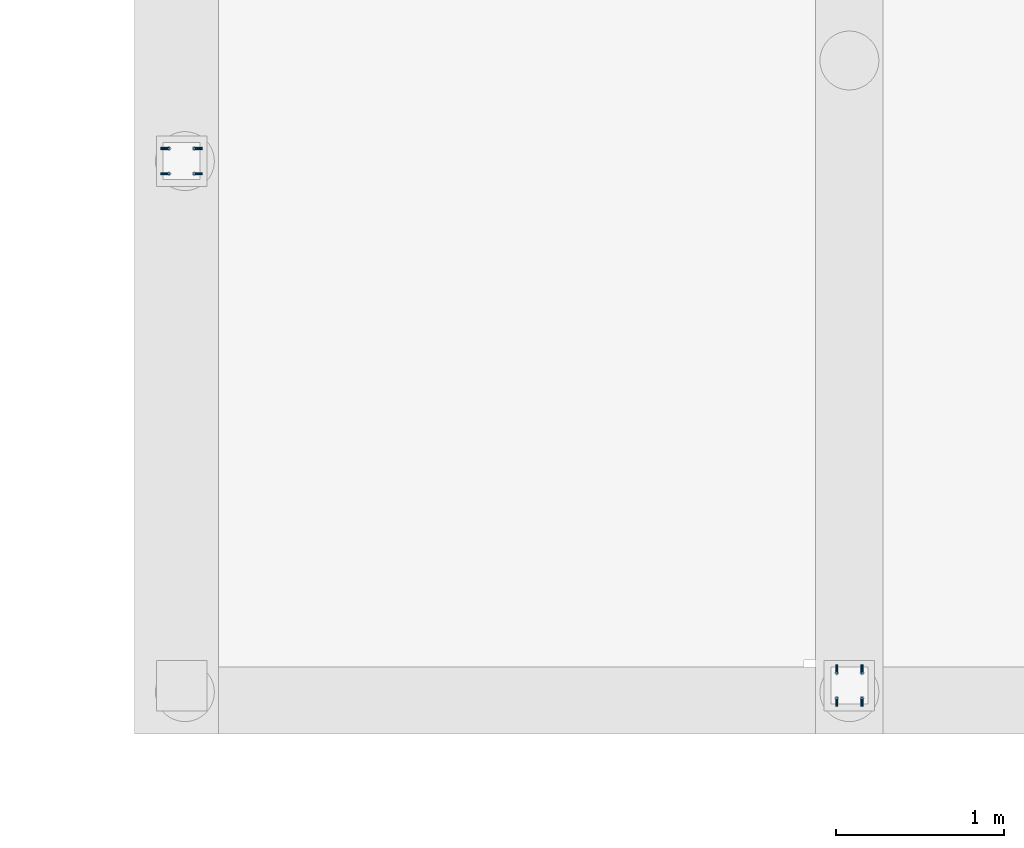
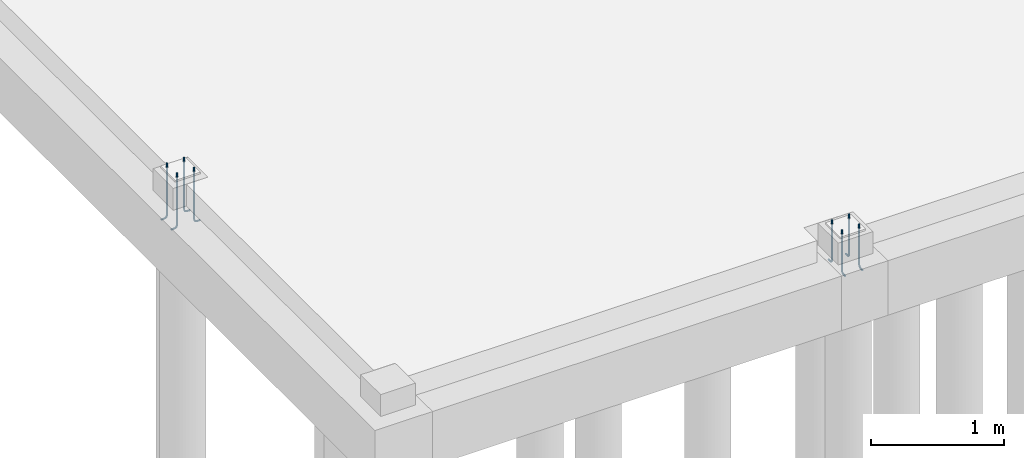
# One storey, part 15 of 22: 8 beams.
"""IFC2X3 building model written with IfcOpenShell, lengths in millimetres."""

from ifc_helpers import new_model, si_unit, frame, origin_with_axes, place, context, subcontext, project, spatial, faceted_brep, material, type_object, element, save


model = new_model("IFC2X3")

# Units and contexts
model_context = context("Model", 3, precision=1e-05, world=origin_with_axes())
body_context = subcontext(model_context, "Body", "Model", "MODEL_VIEW")
ifc_project = project(units=[si_unit("LENGTHUNIT", "METRE", prefix="MILLI"), si_unit("AREAUNIT", "SQUARE_METRE"), si_unit("VOLUMEUNIT", "CUBIC_METRE"), si_unit("MASSUNIT", "GRAM", prefix="KILO"), si_unit("TIMEUNIT", "SECOND"), si_unit("PLANEANGLEUNIT", "RADIAN"), si_unit("SOLIDANGLEUNIT", "STERADIAN"), si_unit("THERMODYNAMICTEMPERATUREUNIT", "DEGREE_CELSIUS"), si_unit("LUMINOUSINTENSITYUNIT", "LUMEN")], contexts=[model_context])

# Site, building, storey
site_placement = place(None, origin_with_axes())
site = spatial("IfcSite", under=ifc_project, at=site_placement, Name="Undefined", CompositionType="ELEMENT")
building_placement = place(site_placement, origin_with_axes())
building = spatial("IfcBuilding", under=site, at=building_placement, Name="Undefined", CompositionType="ELEMENT")
storey_placement = place(building_placement, origin_with_axes())
storey = spatial("IfcBuildingStorey", under=building, at=storey_placement, Name="Undefined", CompositionType="ELEMENT", Elevation=0.0)

# Beams
ifc_material = material(Name="STEEL/S235JR")
beam_type = type_object("IfcBeamType", Name="ANKER_M16", PredefinedType="NOTDEFINED")
beam_1_placement = place(storey_placement, frame((11467.0100631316, 3463.27671001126, 0.0), z_axis=(1.0, 0.0, 0.0), x_axis=(0.0, 0.0, -1.0)))
element("IfcBeam", 1, at=beam_1_placement, inside=storey, type_object=beam_type, material=ifc_material, Name="ANKER", context=body_context, shape_type="Brep", body=[
    faceted_brep([(0.0, -8.00000000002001, 7.27595761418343e-12), (0.0, -5.65685424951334, -5.65685424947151), (477.0, -5.65685424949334, -5.65685424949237), (477.0, -8.0, 0.0), (0.0, -9.09494701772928e-12, -7.99999999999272), (477.0, 0.0, -8.0), (0.0, 5.65685424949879, -5.65685424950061), (477.0, 5.65685424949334, -5.65685424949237), (0.0, 8.00000000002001, -3.63797880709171e-11), (477.0, 8.0, 0.0), (0.0, 5.65685424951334, 5.65685424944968), (477.0, 5.65685424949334, 5.65685424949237), (0.0, 5.45696821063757e-12, 7.99999999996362), (477.0, 0.0, 8.0), (0.0, -5.65685424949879, 5.65685424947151), (477.0, -5.65685424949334, 5.65685424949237), (488.863186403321, 0.0, 5.64026550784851), (487.966503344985, 5.65685424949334, 3.47548110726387), (485.801718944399, 8.0, -1.75077075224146), (483.636934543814, 5.65685424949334, -6.9770226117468), (482.740251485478, 0.0, -9.14180701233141), (483.636934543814, -5.65685424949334, -6.9770226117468), (485.801718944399, -8.0, -1.75077075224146), (487.966503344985, -5.65685424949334, 3.47548110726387), (497.263455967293, -5.65685424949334, -2.73654403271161), (498.920310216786, 0.0, -1.07968978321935), (493.263455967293, -8.0, -6.73654403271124), (489.263455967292, -5.65685424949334, -10.7365440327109), (487.606601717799, 0.0, -12.3933982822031), (489.263455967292, 5.65685424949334, -10.7365440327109), (493.263455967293, 8.0, -6.73654403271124), (497.263455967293, 5.65685424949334, -2.73654403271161), (503.475481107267, -5.65685424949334, -12.0334966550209), (505.640265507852, 0.0, -11.1368135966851), (498.249229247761, -8.0, -14.1982810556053), (493.022977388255, -5.65685424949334, -16.3630654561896), (490.85819298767, 0.0, -17.2597485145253), (493.022977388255, 5.65685424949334, -16.3630654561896), (498.249229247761, 8.0, -14.1982810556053), (503.475481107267, 5.65685424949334, -12.0334966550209), (505.656854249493, -5.65685424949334, -22.9999999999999), (508.000000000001, 0.0, -22.9999999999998), (500.0, -8.0, -23.0), (494.343145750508, -5.65685424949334, -23.0000000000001), (492.000000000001, 0.0, -23.0000000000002), (494.343145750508, 5.65685424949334, -23.0000000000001), (500.000000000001, 8.0, -23.0), (505.656854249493, 5.65685424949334, -22.9999999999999), (494.343145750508, -5.65685424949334, -50.0), (500.0, -8.0, -50.0), (492.0, 0.0, -50.0), (494.343145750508, 5.65685424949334, -50.0), (500.0, 8.0, -50.0), (505.656854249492, 5.65685424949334, -50.0), (508.0, 0.0, -50.0), (505.656854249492, -5.65685424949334, -50.0)], [[[0, 1, 2, 3]], [[1, 4, 5, 2]], [[4, 6, 7, 5]], [[6, 8, 9, 7]], [[8, 10, 11, 9]], [[10, 12, 13, 11]], [[12, 14, 15, 13]], [[14, 0, 3, 15]], [[14, 12, 10, 8, 6, 4, 1, 0]], [[11, 13, 16, 17]], [[9, 11, 17, 18]], [[7, 9, 18, 19]], [[5, 7, 19, 20]], [[2, 5, 20, 21]], [[3, 2, 21, 22]], [[15, 3, 22, 23]], [[13, 15, 23, 16]], [[23, 24, 25, 16]], [[22, 26, 24, 23]], [[21, 27, 26, 22]], [[20, 28, 27, 21]], [[19, 29, 28, 20]], [[18, 30, 29, 19]], [[17, 31, 30, 18]], [[16, 25, 31, 17]], [[24, 32, 33, 25]], [[26, 34, 32, 24]], [[27, 35, 34, 26]], [[28, 36, 35, 27]], [[29, 37, 36, 28]], [[30, 38, 37, 29]], [[31, 39, 38, 30]], [[25, 33, 39, 31]], [[32, 40, 41, 33]], [[34, 42, 40, 32]], [[35, 43, 42, 34]], [[36, 44, 43, 35]], [[37, 45, 44, 36]], [[38, 46, 45, 37]], [[39, 47, 46, 38]], [[33, 41, 47, 39]], [[42, 43, 48, 49]], [[43, 44, 50, 48]], [[44, 45, 51, 50]], [[45, 46, 52, 51]], [[46, 47, 53, 52]], [[47, 41, 54, 53]], [[41, 40, 55, 54]], [[40, 42, 49, 55]], [[50, 51, 52, 53, 54, 55, 49, 48]]]),
])
beam_2_placement = place(storey_placement, frame((11467.0100631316, 3313.27671001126, 0.0), z_axis=(1.0, 0.0, 0.0), x_axis=(0.0, 0.0, -1.0)))
element("IfcBeam", 2, at=beam_2_placement, inside=storey, type_object=beam_type, material=ifc_material, Name="ANKER", context=body_context, shape_type="Brep", body=[
    faceted_brep([(0.0, -8.00000000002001, 7.27595761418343e-12), (0.0, -5.65685424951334, -5.65685424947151), (477.0, -5.65685424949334, -5.65685424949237), (477.0, -8.0, 0.0), (0.0, -9.09494701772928e-12, -7.99999999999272), (477.0, 0.0, -8.0), (0.0, 5.65685424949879, -5.65685424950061), (477.0, 5.65685424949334, -5.65685424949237), (0.0, 8.00000000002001, -3.63797880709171e-11), (477.0, 8.0, 0.0), (0.0, 5.65685424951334, 5.65685424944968), (477.0, 5.65685424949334, 5.65685424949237), (0.0, 5.45696821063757e-12, 7.99999999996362), (477.0, 0.0, 8.0), (0.0, -5.65685424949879, 5.65685424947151), (477.0, -5.65685424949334, 5.65685424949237), (488.863186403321, 0.0, 5.64026550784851), (487.966503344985, 5.65685424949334, 3.47548110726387), (485.801718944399, 8.0, -1.75077075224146), (483.636934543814, 5.65685424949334, -6.9770226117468), (482.740251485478, 0.0, -9.14180701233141), (483.636934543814, -5.65685424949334, -6.9770226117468), (485.801718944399, -8.0, -1.75077075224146), (487.966503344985, -5.65685424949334, 3.47548110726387), (497.263455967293, -5.65685424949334, -2.73654403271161), (498.920310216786, 0.0, -1.07968978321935), (493.263455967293, -8.0, -6.73654403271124), (489.263455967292, -5.65685424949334, -10.7365440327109), (487.606601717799, 0.0, -12.3933982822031), (489.263455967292, 5.65685424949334, -10.7365440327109), (493.263455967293, 8.0, -6.73654403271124), (497.263455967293, 5.65685424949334, -2.73654403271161), (503.475481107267, -5.65685424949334, -12.0334966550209), (505.640265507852, 0.0, -11.1368135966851), (498.249229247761, -8.0, -14.1982810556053), (493.022977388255, -5.65685424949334, -16.3630654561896), (490.85819298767, 0.0, -17.2597485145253), (493.022977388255, 5.65685424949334, -16.3630654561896), (498.249229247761, 8.0, -14.1982810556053), (503.475481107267, 5.65685424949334, -12.0334966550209), (505.656854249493, -5.65685424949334, -22.9999999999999), (508.000000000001, 0.0, -22.9999999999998), (500.0, -8.0, -23.0), (494.343145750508, -5.65685424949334, -23.0000000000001), (492.000000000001, 0.0, -23.0000000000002), (494.343145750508, 5.65685424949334, -23.0000000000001), (500.000000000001, 8.0, -23.0), (505.656854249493, 5.65685424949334, -22.9999999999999), (494.343145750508, -5.65685424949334, -50.0), (500.0, -8.0, -50.0), (492.0, 0.0, -50.0), (494.343145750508, 5.65685424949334, -50.0), (500.0, 8.0, -50.0), (505.656854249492, 5.65685424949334, -50.0), (508.0, 0.0, -50.0), (505.656854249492, -5.65685424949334, -50.0)], [[[0, 1, 2, 3]], [[1, 4, 5, 2]], [[4, 6, 7, 5]], [[6, 8, 9, 7]], [[8, 10, 11, 9]], [[10, 12, 13, 11]], [[12, 14, 15, 13]], [[14, 0, 3, 15]], [[14, 12, 10, 8, 6, 4, 1, 0]], [[11, 13, 16, 17]], [[9, 11, 17, 18]], [[7, 9, 18, 19]], [[5, 7, 19, 20]], [[2, 5, 20, 21]], [[3, 2, 21, 22]], [[15, 3, 22, 23]], [[13, 15, 23, 16]], [[23, 24, 25, 16]], [[22, 26, 24, 23]], [[21, 27, 26, 22]], [[20, 28, 27, 21]], [[19, 29, 28, 20]], [[18, 30, 29, 19]], [[17, 31, 30, 18]], [[16, 25, 31, 17]], [[24, 32, 33, 25]], [[26, 34, 32, 24]], [[27, 35, 34, 26]], [[28, 36, 35, 27]], [[29, 37, 36, 28]], [[30, 38, 37, 29]], [[31, 39, 38, 30]], [[25, 33, 39, 31]], [[32, 40, 41, 33]], [[34, 42, 40, 32]], [[35, 43, 42, 34]], [[36, 44, 43, 35]], [[37, 45, 44, 36]], [[38, 46, 45, 37]], [[39, 47, 46, 38]], [[33, 41, 47, 39]], [[42, 43, 48, 49]], [[43, 44, 50, 48]], [[44, 45, 51, 50]], [[45, 46, 52, 51]], [[46, 47, 53, 52]], [[47, 41, 54, 53]], [[41, 40, 55, 54]], [[40, 42, 49, 55]], [[50, 51, 52, 53, 54, 55, 49, 48]]]),
])
beam_3_placement = place(storey_placement, frame((11617.0100631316, 3463.27671001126, 0.0), z_axis=(1.0, 0.0, 0.0), x_axis=(0.0, 0.0, -1.0)))
element("IfcBeam", 3, at=beam_3_placement, inside=storey, type_object=beam_type, material=ifc_material, Name="ANKER", context=body_context, shape_type="Brep", body=[
    faceted_brep([(0.0, -8.00000000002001, 7.27595761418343e-12), (0.0, -5.65685424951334, -5.65685424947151), (477.0, -5.65685424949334, -5.65685424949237), (477.0, -8.0, 0.0), (0.0, -9.09494701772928e-12, -7.99999999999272), (477.0, 0.0, -8.0), (0.0, 5.65685424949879, -5.65685424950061), (477.0, 5.65685424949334, -5.65685424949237), (0.0, 8.00000000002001, -3.63797880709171e-11), (477.0, 8.0, 0.0), (0.0, 5.65685424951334, 5.65685424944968), (477.0, 5.65685424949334, 5.65685424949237), (0.0, 5.45696821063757e-12, 7.99999999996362), (477.0, 0.0, 8.0), (0.0, -5.65685424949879, 5.65685424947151), (477.0, -5.65685424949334, 5.65685424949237), (488.863186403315, 0.0, -5.64026550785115), (487.966503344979, -5.65685424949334, -3.47548110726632), (485.801718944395, -8.0, 1.75077075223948), (483.636934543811, -5.65685424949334, 6.97702261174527), (482.740251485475, 0.0, 9.14180701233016), (483.636934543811, 5.65685424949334, 6.97702261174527), (485.801718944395, 8.0, 1.75077075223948), (487.966503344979, 5.65685424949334, -3.47548110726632), (497.263455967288, 5.65685424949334, 2.73654403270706), (498.920310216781, 0.0, 1.07968978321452), (493.263455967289, 8.0, 6.73654403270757), (489.263455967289, 5.65685424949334, 10.7365440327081), (487.606601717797, 0.0, 12.3933982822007), (489.263455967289, -5.65685424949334, 10.7365440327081), (493.263455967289, -8.0, 6.73654403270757), (497.263455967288, -5.65685424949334, 2.73654403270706), (503.475481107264, 5.65685424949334, 12.033496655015), (505.640265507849, 0.0, 11.1368135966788), (498.249229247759, 8.0, 14.1982810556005), (493.022977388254, 5.65685424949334, 16.363065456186), (490.858192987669, 0.0, 17.2597485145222), (493.022977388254, -5.65685424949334, 16.363065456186), (498.249229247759, -8.0, 14.1982810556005), (503.475481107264, -5.65685424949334, 12.033496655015), (505.656854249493, 5.65685424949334, 22.9999999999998), (508.000000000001, 0.0, 22.9999999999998), (500.000000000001, 8.0, 23.0), (494.343145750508, 5.65685424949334, 23.0000000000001), (492.000000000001, 0.0, 23.0000000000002), (494.343145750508, -5.65685424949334, 23.0000000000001), (500.0, -8.0, 23.0), (505.656854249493, -5.65685424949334, 22.9999999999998), (505.656854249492, -5.65685424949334, 50.0), (500.0, -8.0, 50.0), (508.0, 0.0, 50.0), (505.656854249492, 5.65685424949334, 50.0), (500.0, 8.0, 50.0), (494.343145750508, 5.65685424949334, 50.0), (492.0, 0.0, 50.0), (494.343145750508, -5.65685424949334, 50.0)], [[[0, 1, 2, 3]], [[1, 4, 5, 2]], [[4, 6, 7, 5]], [[6, 8, 9, 7]], [[8, 10, 11, 9]], [[10, 12, 13, 11]], [[12, 14, 15, 13]], [[14, 0, 3, 15]], [[14, 12, 10, 8, 6, 4, 1, 0]], [[2, 5, 16, 17]], [[3, 2, 17, 18]], [[15, 3, 18, 19]], [[13, 15, 19, 20]], [[11, 13, 20, 21]], [[9, 11, 21, 22]], [[7, 9, 22, 23]], [[5, 7, 23, 16]], [[23, 24, 25, 16]], [[22, 26, 24, 23]], [[21, 27, 26, 22]], [[20, 28, 27, 21]], [[19, 29, 28, 20]], [[18, 30, 29, 19]], [[17, 31, 30, 18]], [[16, 25, 31, 17]], [[24, 32, 33, 25]], [[26, 34, 32, 24]], [[27, 35, 34, 26]], [[28, 36, 35, 27]], [[29, 37, 36, 28]], [[30, 38, 37, 29]], [[31, 39, 38, 30]], [[25, 33, 39, 31]], [[32, 40, 41, 33]], [[34, 42, 40, 32]], [[35, 43, 42, 34]], [[36, 44, 43, 35]], [[37, 45, 44, 36]], [[38, 46, 45, 37]], [[39, 47, 46, 38]], [[33, 41, 47, 39]], [[46, 47, 48, 49]], [[47, 41, 50, 48]], [[41, 40, 51, 50]], [[40, 42, 52, 51]], [[42, 43, 53, 52]], [[43, 44, 54, 53]], [[44, 45, 55, 54]], [[45, 46, 49, 55]], [[50, 51, 52, 53, 54, 55, 49, 48]]]),
])
beam_4_placement = place(storey_placement, frame((11617.0100631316, 3313.27671001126, 0.0), z_axis=(-1.0, 0.0, 0.0), x_axis=(0.0, 0.0, -1.0)))
element("IfcBeam", 4, at=beam_4_placement, inside=storey, type_object=beam_type, material=ifc_material, Name="ANKER", context=body_context, shape_type="Brep", body=[
    faceted_brep([(0.0, -8.00000000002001, 7.27595761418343e-12), (0.0, -5.65685424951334, -5.65685424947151), (477.0, -5.65685424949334, -5.65685424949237), (477.0, -8.0, 0.0), (0.0, -9.09494701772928e-12, -7.99999999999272), (477.0, 0.0, -8.0), (0.0, 5.65685424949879, -5.65685424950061), (477.0, 5.65685424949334, -5.65685424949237), (0.0, 8.00000000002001, -3.63797880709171e-11), (477.0, 8.0, 0.0), (0.0, 5.65685424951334, 5.65685424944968), (477.0, 5.65685424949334, 5.65685424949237), (0.0, 5.45696821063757e-12, 7.99999999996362), (477.0, 0.0, 8.0), (0.0, -5.65685424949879, 5.65685424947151), (477.0, -5.65685424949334, 5.65685424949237), (488.863186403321, 0.0, 5.64026550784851), (487.966503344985, 5.65685424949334, 3.47548110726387), (485.801718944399, 8.0, -1.75077075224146), (483.636934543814, 5.65685424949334, -6.9770226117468), (482.740251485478, 0.0, -9.14180701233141), (483.636934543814, -5.65685424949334, -6.9770226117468), (485.801718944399, -8.0, -1.75077075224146), (487.966503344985, -5.65685424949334, 3.47548110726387), (497.263455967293, -5.65685424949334, -2.73654403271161), (498.920310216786, 0.0, -1.07968978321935), (493.263455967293, -8.0, -6.73654403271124), (489.263455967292, -5.65685424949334, -10.7365440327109), (487.606601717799, 0.0, -12.3933982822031), (489.263455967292, 5.65685424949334, -10.7365440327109), (493.263455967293, 8.0, -6.73654403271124), (497.263455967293, 5.65685424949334, -2.73654403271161), (503.475481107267, -5.65685424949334, -12.0334966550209), (505.640265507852, 0.0, -11.1368135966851), (498.249229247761, -8.0, -14.1982810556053), (493.022977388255, -5.65685424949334, -16.3630654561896), (490.85819298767, 0.0, -17.2597485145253), (493.022977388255, 5.65685424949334, -16.3630654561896), (498.249229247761, 8.0, -14.1982810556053), (503.475481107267, 5.65685424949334, -12.0334966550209), (505.656854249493, -5.65685424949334, -22.9999999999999), (508.000000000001, 0.0, -22.9999999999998), (500.0, -8.0, -23.0), (494.343145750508, -5.65685424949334, -23.0000000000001), (492.000000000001, 0.0, -23.0000000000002), (494.343145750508, 5.65685424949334, -23.0000000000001), (500.000000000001, 8.0, -23.0), (505.656854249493, 5.65685424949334, -22.9999999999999), (494.343145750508, -5.65685424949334, -50.0), (500.0, -8.0, -50.0), (492.0, 0.0, -50.0), (494.343145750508, 5.65685424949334, -50.0), (500.0, 8.0, -50.0), (505.656854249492, 5.65685424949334, -50.0), (508.0, 0.0, -50.0), (505.656854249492, -5.65685424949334, -50.0)], [[[0, 1, 2, 3]], [[1, 4, 5, 2]], [[4, 6, 7, 5]], [[6, 8, 9, 7]], [[8, 10, 11, 9]], [[10, 12, 13, 11]], [[12, 14, 15, 13]], [[14, 0, 3, 15]], [[14, 12, 10, 8, 6, 4, 1, 0]], [[11, 13, 16, 17]], [[9, 11, 17, 18]], [[7, 9, 18, 19]], [[5, 7, 19, 20]], [[2, 5, 20, 21]], [[3, 2, 21, 22]], [[15, 3, 22, 23]], [[13, 15, 23, 16]], [[23, 24, 25, 16]], [[22, 26, 24, 23]], [[21, 27, 26, 22]], [[20, 28, 27, 21]], [[19, 29, 28, 20]], [[18, 30, 29, 19]], [[17, 31, 30, 18]], [[16, 25, 31, 17]], [[24, 32, 33, 25]], [[26, 34, 32, 24]], [[27, 35, 34, 26]], [[28, 36, 35, 27]], [[29, 37, 36, 28]], [[30, 38, 37, 29]], [[31, 39, 38, 30]], [[25, 33, 39, 31]], [[32, 40, 41, 33]], [[34, 42, 40, 32]], [[35, 43, 42, 34]], [[36, 44, 43, 35]], [[37, 45, 44, 36]], [[38, 46, 45, 37]], [[39, 47, 46, 38]], [[33, 41, 47, 39]], [[42, 43, 48, 49]], [[43, 44, 50, 48]], [[44, 45, 51, 50]], [[45, 46, 52, 51]], [[46, 47, 53, 52]], [[47, 41, 54, 53]], [[41, 40, 55, 54]], [[40, 42, 49, 55]], [[50, 51, 52, 53, 54, 55, 49, 48]]]),
])
beam_5_placement = place(storey_placement, frame((15431.7104288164, 199.72122230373, -20.0), z_axis=(0.0, 1.0, 0.0), x_axis=(0.0, 0.0, -1.0)))
element("IfcBeam", 5, at=beam_5_placement, inside=storey, type_object=beam_type, material=ifc_material, Name="ANKER", context=body_context, shape_type="Brep", body=[
    faceted_brep([(0.0, -8.00000000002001, 7.27595761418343e-12), (0.0, -5.65685424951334, -5.65685424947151), (369.0, -5.65685424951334, -5.65685424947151), (369.0, -8.00000000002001, 7.27595761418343e-12), (0.0, -9.09494701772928e-12, -7.99999999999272), (369.0, -9.09494701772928e-12, -7.99999999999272), (0.0, 5.65685424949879, -5.65685424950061), (369.0, 5.65685424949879, -5.65685424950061), (0.0, 8.00000000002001, -3.63797880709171e-11), (369.0, 8.00000000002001, -3.63797880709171e-11), (0.0, 5.65685424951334, 5.65685424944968), (369.0, 5.65685424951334, 5.65685424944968), (0.0, 5.45696821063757e-12, 7.99999999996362), (369.0, 5.45696821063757e-12, 7.99999999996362), (0.0, -5.65685424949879, 5.65685424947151), (369.0, -5.65685424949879, 5.65685424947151), (380.863186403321, 9.09494701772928e-12, 5.64026550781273), (379.966503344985, 5.65685424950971, 3.4754811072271), (377.8017189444, 8.00000000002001, -1.75077075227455), (375.636934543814, 5.65685424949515, -6.97702261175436), (374.740251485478, -9.09494701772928e-12, -9.14180701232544), (375.636934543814, -5.65685424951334, -6.97702261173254), (377.8017189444, -8.00000000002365, -1.75077075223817), (379.966503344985, -5.65685424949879, 3.4754811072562), (389.263455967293, -5.65685424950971, -2.73654403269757), (390.920310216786, -1.81898940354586e-12, -1.07968978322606), (385.263455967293, -8.00000000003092, -6.73654403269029), (381.263455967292, -5.65685424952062, -10.736544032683), (379.6066017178, -9.09494701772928e-12, -12.3933982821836), (381.263455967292, 5.65685424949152, -10.7365440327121), (385.263455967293, 8.00000000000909, -6.73654403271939), (389.263455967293, 5.65685424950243, -2.73654403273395), (395.475481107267, -5.65685424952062, -12.0334966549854), (397.640265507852, -1.2732925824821e-11, -11.1368135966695), (390.249229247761, -8.00000000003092, -14.1982810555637), (385.022977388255, -5.65685424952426, -16.3630654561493), (382.85819298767, -1.63709046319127e-11, -17.2597485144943), (385.022977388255, 5.65685424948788, -16.3630654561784), (390.249229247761, 8.00000000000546, -14.1982810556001), (395.475481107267, 5.65685424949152, -12.0334966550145), (397.656854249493, -5.65685424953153, -22.9999999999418), (400.000000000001, -2.36468622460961e-11, -22.9999999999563), (392.0, -8.00000000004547, -22.9999999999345), (386.343145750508, -5.65685424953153, -22.9999999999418), (384.000000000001, -2.36468622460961e-11, -22.9999999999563), (386.343145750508, 5.65685424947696, -22.9999999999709), (392.000000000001, 7.99999999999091, -22.9999999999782), (397.656854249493, 5.65685424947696, -22.9999999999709), (386.343145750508, -5.65685424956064, -49.9999999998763), (392.0, -8.00000000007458, -49.999999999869), (384.0, -5.63886715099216e-11, -49.9999999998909), (386.343145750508, 5.65685424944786, -49.9999999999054), (392.0, 7.9999999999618, -49.9999999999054), (397.656854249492, 5.65685424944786, -49.9999999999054), (400.0, -5.63886715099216e-11, -49.9999999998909), (397.656854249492, -5.65685424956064, -49.9999999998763)], [[[0, 1, 2, 3]], [[1, 4, 5, 2]], [[4, 6, 7, 5]], [[6, 8, 9, 7]], [[8, 10, 11, 9]], [[10, 12, 13, 11]], [[12, 14, 15, 13]], [[14, 0, 3, 15]], [[14, 12, 10, 8, 6, 4, 1, 0]], [[11, 13, 16, 17]], [[9, 11, 17, 18]], [[7, 9, 18, 19]], [[5, 7, 19, 20]], [[2, 5, 20, 21]], [[3, 2, 21, 22]], [[15, 3, 22, 23]], [[13, 15, 23, 16]], [[23, 24, 25, 16]], [[22, 26, 24, 23]], [[21, 27, 26, 22]], [[20, 28, 27, 21]], [[19, 29, 28, 20]], [[18, 30, 29, 19]], [[17, 31, 30, 18]], [[16, 25, 31, 17]], [[24, 32, 33, 25]], [[26, 34, 32, 24]], [[27, 35, 34, 26]], [[28, 36, 35, 27]], [[29, 37, 36, 28]], [[30, 38, 37, 29]], [[31, 39, 38, 30]], [[25, 33, 39, 31]], [[32, 40, 41, 33]], [[34, 42, 40, 32]], [[35, 43, 42, 34]], [[36, 44, 43, 35]], [[37, 45, 44, 36]], [[38, 46, 45, 37]], [[39, 47, 46, 38]], [[33, 41, 47, 39]], [[42, 43, 48, 49]], [[43, 44, 50, 48]], [[44, 45, 51, 50]], [[45, 46, 52, 51]], [[46, 47, 53, 52]], [[47, 41, 54, 53]], [[41, 40, 55, 54]], [[40, 42, 49, 55]], [[50, 51, 52, 53, 54, 55, 49, 48]]]),
])
beam_6_placement = place(storey_placement, frame((15581.7104288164, 199.72122230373, -20.0), z_axis=(0.0, 1.0, 0.0), x_axis=(0.0, 0.0, -1.0)))
element("IfcBeam", 6, at=beam_6_placement, inside=storey, type_object=beam_type, material=ifc_material, Name="ANKER", context=body_context, shape_type="Brep", body=[
    faceted_brep([(0.0, -8.00000000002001, 7.27595761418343e-12), (0.0, -5.65685424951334, -5.65685424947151), (369.0, -5.65685424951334, -5.65685424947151), (369.0, -8.00000000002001, 7.27595761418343e-12), (0.0, -9.09494701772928e-12, -7.99999999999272), (369.0, -9.09494701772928e-12, -7.99999999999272), (0.0, 5.65685424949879, -5.65685424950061), (369.0, 5.65685424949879, -5.65685424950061), (0.0, 8.00000000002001, -3.63797880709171e-11), (369.0, 8.00000000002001, -3.63797880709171e-11), (0.0, 5.65685424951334, 5.65685424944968), (369.0, 5.65685424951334, 5.65685424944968), (0.0, 5.45696821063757e-12, 7.99999999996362), (369.0, 5.45696821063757e-12, 7.99999999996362), (0.0, -5.65685424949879, 5.65685424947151), (369.0, -5.65685424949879, 5.65685424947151), (380.863186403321, 9.09494701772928e-12, 5.64026550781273), (379.966503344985, 5.65685424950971, 3.4754811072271), (377.8017189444, 8.00000000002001, -1.75077075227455), (375.636934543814, 5.65685424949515, -6.97702261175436), (374.740251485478, -9.09494701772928e-12, -9.14180701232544), (375.636934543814, -5.65685424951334, -6.97702261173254), (377.8017189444, -8.00000000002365, -1.75077075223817), (379.966503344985, -5.65685424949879, 3.4754811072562), (389.263455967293, -5.65685424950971, -2.73654403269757), (390.920310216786, -1.81898940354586e-12, -1.07968978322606), (385.263455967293, -8.00000000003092, -6.73654403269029), (381.263455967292, -5.65685424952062, -10.736544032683), (379.6066017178, -9.09494701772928e-12, -12.3933982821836), (381.263455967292, 5.65685424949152, -10.7365440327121), (385.263455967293, 8.00000000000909, -6.73654403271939), (389.263455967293, 5.65685424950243, -2.73654403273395), (395.475481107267, -5.65685424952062, -12.0334966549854), (397.640265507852, -1.2732925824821e-11, -11.1368135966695), (390.249229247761, -8.00000000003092, -14.1982810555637), (385.022977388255, -5.65685424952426, -16.3630654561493), (382.85819298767, -1.63709046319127e-11, -17.2597485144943), (385.022977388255, 5.65685424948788, -16.3630654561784), (390.249229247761, 8.00000000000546, -14.1982810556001), (395.475481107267, 5.65685424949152, -12.0334966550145), (397.656854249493, -5.65685424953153, -22.9999999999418), (400.000000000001, -2.36468622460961e-11, -22.9999999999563), (392.0, -8.00000000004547, -22.9999999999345), (386.343145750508, -5.65685424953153, -22.9999999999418), (384.000000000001, -2.36468622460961e-11, -22.9999999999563), (386.343145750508, 5.65685424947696, -22.9999999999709), (392.000000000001, 7.99999999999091, -22.9999999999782), (397.656854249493, 5.65685424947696, -22.9999999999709), (386.343145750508, -5.65685424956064, -49.9999999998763), (392.0, -8.00000000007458, -49.999999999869), (384.0, -5.63886715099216e-11, -49.9999999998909), (386.343145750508, 5.65685424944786, -49.9999999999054), (392.0, 7.9999999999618, -49.9999999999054), (397.656854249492, 5.65685424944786, -49.9999999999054), (400.0, -5.63886715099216e-11, -49.9999999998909), (397.656854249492, -5.65685424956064, -49.9999999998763)], [[[0, 1, 2, 3]], [[1, 4, 5, 2]], [[4, 6, 7, 5]], [[6, 8, 9, 7]], [[8, 10, 11, 9]], [[10, 12, 13, 11]], [[12, 14, 15, 13]], [[14, 0, 3, 15]], [[14, 12, 10, 8, 6, 4, 1, 0]], [[11, 13, 16, 17]], [[9, 11, 17, 18]], [[7, 9, 18, 19]], [[5, 7, 19, 20]], [[2, 5, 20, 21]], [[3, 2, 21, 22]], [[15, 3, 22, 23]], [[13, 15, 23, 16]], [[23, 24, 25, 16]], [[22, 26, 24, 23]], [[21, 27, 26, 22]], [[20, 28, 27, 21]], [[19, 29, 28, 20]], [[18, 30, 29, 19]], [[17, 31, 30, 18]], [[16, 25, 31, 17]], [[24, 32, 33, 25]], [[26, 34, 32, 24]], [[27, 35, 34, 26]], [[28, 36, 35, 27]], [[29, 37, 36, 28]], [[30, 38, 37, 29]], [[31, 39, 38, 30]], [[25, 33, 39, 31]], [[32, 40, 41, 33]], [[34, 42, 40, 32]], [[35, 43, 42, 34]], [[36, 44, 43, 35]], [[37, 45, 44, 36]], [[38, 46, 45, 37]], [[39, 47, 46, 38]], [[33, 41, 47, 39]], [[42, 43, 48, 49]], [[43, 44, 50, 48]], [[44, 45, 51, 50]], [[45, 46, 52, 51]], [[46, 47, 53, 52]], [[47, 41, 54, 53]], [[41, 40, 55, 54]], [[40, 42, 49, 55]], [[50, 51, 52, 53, 54, 55, 49, 48]]]),
])
beam_7_placement = place(storey_placement, frame((15431.7104288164, 349.72122230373, -20.0), z_axis=(0.0, 1.0, 0.0), x_axis=(0.0, 0.0, -1.0)))
element("IfcBeam", 7, at=beam_7_placement, inside=storey, type_object=beam_type, material=ifc_material, Name="ANKER", context=body_context, shape_type="Brep", body=[
    faceted_brep([(0.0, -8.00000000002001, 7.27595761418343e-12), (0.0, -5.65685424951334, -5.65685424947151), (369.0, -5.65685424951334, -5.65685424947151), (369.0, -8.00000000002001, 7.27595761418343e-12), (0.0, -9.09494701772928e-12, -7.99999999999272), (369.0, -9.09494701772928e-12, -7.99999999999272), (0.0, 5.65685424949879, -5.65685424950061), (369.0, 5.65685424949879, -5.65685424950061), (0.0, 8.00000000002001, -3.63797880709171e-11), (369.0, 8.00000000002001, -3.63797880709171e-11), (0.0, 5.65685424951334, 5.65685424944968), (369.0, 5.65685424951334, 5.65685424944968), (0.0, 5.45696821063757e-12, 7.99999999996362), (369.0, 5.45696821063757e-12, 7.99999999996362), (0.0, -5.65685424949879, 5.65685424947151), (369.0, -5.65685424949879, 5.65685424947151), (380.863186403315, -9.09494701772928e-12, -5.64026550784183), (379.966503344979, -5.65685424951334, -3.47548110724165), (377.801718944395, -8.00000000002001, 1.75077075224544), (375.636934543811, -5.65685424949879, 6.97702261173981), (374.740251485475, 1.2732925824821e-11, 9.14180701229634), (375.636934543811, 5.65685424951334, 6.97702261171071), (377.801718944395, 8.00000000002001, 1.75077075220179), (379.966503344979, 5.65685424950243, -3.47548110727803), (389.263455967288, 5.65685424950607, 2.73654403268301), (390.920310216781, -1.81898940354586e-12, 1.07968978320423), (385.263455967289, 8.00000000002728, 6.73654403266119), (381.263455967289, 5.65685424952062, 10.7365440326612), (379.606601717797, 1.2732925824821e-11, 12.3933982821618), (381.263455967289, -5.65685424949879, 10.736544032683), (385.263455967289, -8.00000000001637, 6.73654403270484), (389.263455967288, -5.65685424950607, 2.73654403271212), (395.475481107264, 5.65685424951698, 12.0334966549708), (397.640265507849, 1.2732925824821e-11, 11.1368135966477), (390.249229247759, 8.00000000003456, 14.1982810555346), (385.022977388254, 5.65685424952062, 16.3630654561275), (382.858192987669, 1.63709046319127e-11, 17.2597485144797), (385.022977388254, -5.65685424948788, 16.3630654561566), (390.249229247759, -8.00000000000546, 14.1982810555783), (395.475481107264, -5.65685424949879, 12.0334966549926), (397.656854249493, 5.65685424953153, 22.99999999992), (400.000000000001, 2.36468622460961e-11, 22.9999999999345), (392.000000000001, 8.00000000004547, 22.99999999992), (386.343145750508, 5.65685424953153, 22.99999999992), (384.000000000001, 2.36468622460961e-11, 22.9999999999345), (386.343145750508, -5.65685424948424, 22.9999999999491), (392.0, -7.99999999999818, 22.9999999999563), (397.656854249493, -5.65685424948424, 22.9999999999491), (397.656854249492, -5.6568542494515, 49.9999999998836), (392.0, -7.99999999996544, 49.9999999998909), (400.0, 5.27506927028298e-11, 49.999999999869), (397.656854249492, 5.65685424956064, 49.9999999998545), (392.0, 8.00000000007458, 49.9999999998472), (386.343145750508, 5.65685424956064, 49.9999999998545), (384.0, 5.27506927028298e-11, 49.999999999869), (386.343145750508, -5.6568542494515, 49.9999999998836)], [[[0, 1, 2, 3]], [[1, 4, 5, 2]], [[4, 6, 7, 5]], [[6, 8, 9, 7]], [[8, 10, 11, 9]], [[10, 12, 13, 11]], [[12, 14, 15, 13]], [[14, 0, 3, 15]], [[14, 12, 10, 8, 6, 4, 1, 0]], [[2, 5, 16, 17]], [[3, 2, 17, 18]], [[15, 3, 18, 19]], [[13, 15, 19, 20]], [[11, 13, 20, 21]], [[9, 11, 21, 22]], [[7, 9, 22, 23]], [[5, 7, 23, 16]], [[23, 24, 25, 16]], [[22, 26, 24, 23]], [[21, 27, 26, 22]], [[20, 28, 27, 21]], [[19, 29, 28, 20]], [[18, 30, 29, 19]], [[17, 31, 30, 18]], [[16, 25, 31, 17]], [[24, 32, 33, 25]], [[26, 34, 32, 24]], [[27, 35, 34, 26]], [[28, 36, 35, 27]], [[29, 37, 36, 28]], [[30, 38, 37, 29]], [[31, 39, 38, 30]], [[25, 33, 39, 31]], [[32, 40, 41, 33]], [[34, 42, 40, 32]], [[35, 43, 42, 34]], [[36, 44, 43, 35]], [[37, 45, 44, 36]], [[38, 46, 45, 37]], [[39, 47, 46, 38]], [[33, 41, 47, 39]], [[46, 47, 48, 49]], [[47, 41, 50, 48]], [[41, 40, 51, 50]], [[40, 42, 52, 51]], [[42, 43, 53, 52]], [[43, 44, 54, 53]], [[44, 45, 55, 54]], [[45, 46, 49, 55]], [[50, 51, 52, 53, 54, 55, 49, 48]]]),
])
beam_8_placement = place(storey_placement, frame((15581.7104288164, 349.72122230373, -20.0), z_axis=(0.0, -1.0, 0.0), x_axis=(0.0, 0.0, -1.0)))
element("IfcBeam", 8, at=beam_8_placement, inside=storey, type_object=beam_type, material=ifc_material, Name="ANKER", context=body_context, shape_type="Brep", body=[
    faceted_brep([(0.0, -8.00000000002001, 7.27595761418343e-12), (0.0, -5.65685424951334, -5.65685424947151), (369.0, -5.65685424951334, -5.65685424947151), (369.0, -8.00000000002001, 7.27595761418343e-12), (0.0, -9.09494701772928e-12, -7.99999999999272), (369.0, -9.09494701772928e-12, -7.99999999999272), (0.0, 5.65685424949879, -5.65685424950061), (369.0, 5.65685424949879, -5.65685424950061), (0.0, 8.00000000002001, -3.63797880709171e-11), (369.0, 8.00000000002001, -3.63797880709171e-11), (0.0, 5.65685424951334, 5.65685424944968), (369.0, 5.65685424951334, 5.65685424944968), (0.0, 5.45696821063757e-12, 7.99999999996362), (369.0, 5.45696821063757e-12, 7.99999999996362), (0.0, -5.65685424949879, 5.65685424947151), (369.0, -5.65685424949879, 5.65685424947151), (380.863186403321, 9.09494701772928e-12, 5.64026550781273), (379.966503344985, 5.65685424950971, 3.4754811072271), (377.8017189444, 8.00000000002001, -1.75077075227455), (375.636934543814, 5.65685424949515, -6.97702261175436), (374.740251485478, -9.09494701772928e-12, -9.14180701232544), (375.636934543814, -5.65685424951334, -6.97702261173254), (377.8017189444, -8.00000000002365, -1.75077075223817), (379.966503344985, -5.65685424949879, 3.4754811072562), (389.263455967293, -5.65685424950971, -2.73654403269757), (390.920310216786, -1.81898940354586e-12, -1.07968978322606), (385.263455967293, -8.00000000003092, -6.73654403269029), (381.263455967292, -5.65685424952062, -10.736544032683), (379.6066017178, -9.09494701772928e-12, -12.3933982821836), (381.263455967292, 5.65685424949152, -10.7365440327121), (385.263455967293, 8.00000000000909, -6.73654403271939), (389.263455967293, 5.65685424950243, -2.73654403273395), (395.475481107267, -5.65685424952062, -12.0334966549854), (397.640265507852, -1.2732925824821e-11, -11.1368135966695), (390.249229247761, -8.00000000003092, -14.1982810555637), (385.022977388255, -5.65685424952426, -16.3630654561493), (382.85819298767, -1.63709046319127e-11, -17.2597485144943), (385.022977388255, 5.65685424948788, -16.3630654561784), (390.249229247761, 8.00000000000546, -14.1982810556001), (395.475481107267, 5.65685424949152, -12.0334966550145), (397.656854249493, -5.65685424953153, -22.9999999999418), (400.000000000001, -2.36468622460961e-11, -22.9999999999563), (392.0, -8.00000000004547, -22.9999999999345), (386.343145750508, -5.65685424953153, -22.9999999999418), (384.000000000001, -2.36468622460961e-11, -22.9999999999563), (386.343145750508, 5.65685424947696, -22.9999999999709), (392.000000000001, 7.99999999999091, -22.9999999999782), (397.656854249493, 5.65685424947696, -22.9999999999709), (386.343145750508, -5.65685424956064, -49.9999999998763), (392.0, -8.00000000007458, -49.999999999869), (384.0, -5.63886715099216e-11, -49.9999999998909), (386.343145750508, 5.65685424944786, -49.9999999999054), (392.0, 7.9999999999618, -49.9999999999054), (397.656854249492, 5.65685424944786, -49.9999999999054), (400.0, -5.63886715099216e-11, -49.9999999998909), (397.656854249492, -5.65685424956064, -49.9999999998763)], [[[0, 1, 2, 3]], [[1, 4, 5, 2]], [[4, 6, 7, 5]], [[6, 8, 9, 7]], [[8, 10, 11, 9]], [[10, 12, 13, 11]], [[12, 14, 15, 13]], [[14, 0, 3, 15]], [[14, 12, 10, 8, 6, 4, 1, 0]], [[11, 13, 16, 17]], [[9, 11, 17, 18]], [[7, 9, 18, 19]], [[5, 7, 19, 20]], [[2, 5, 20, 21]], [[3, 2, 21, 22]], [[15, 3, 22, 23]], [[13, 15, 23, 16]], [[23, 24, 25, 16]], [[22, 26, 24, 23]], [[21, 27, 26, 22]], [[20, 28, 27, 21]], [[19, 29, 28, 20]], [[18, 30, 29, 19]], [[17, 31, 30, 18]], [[16, 25, 31, 17]], [[24, 32, 33, 25]], [[26, 34, 32, 24]], [[27, 35, 34, 26]], [[28, 36, 35, 27]], [[29, 37, 36, 28]], [[30, 38, 37, 29]], [[31, 39, 38, 30]], [[25, 33, 39, 31]], [[32, 40, 41, 33]], [[34, 42, 40, 32]], [[35, 43, 42, 34]], [[36, 44, 43, 35]], [[37, 45, 44, 36]], [[38, 46, 45, 37]], [[39, 47, 46, 38]], [[33, 41, 47, 39]], [[42, 43, 48, 49]], [[43, 44, 50, 48]], [[44, 45, 51, 50]], [[45, 46, 52, 51]], [[46, 47, 53, 52]], [[47, 41, 54, 53]], [[41, 40, 55, 54]], [[40, 42, 49, 55]], [[50, 51, 52, 53, 54, 55, 49, 48]]]),
])

save(model, "model.ifc")
